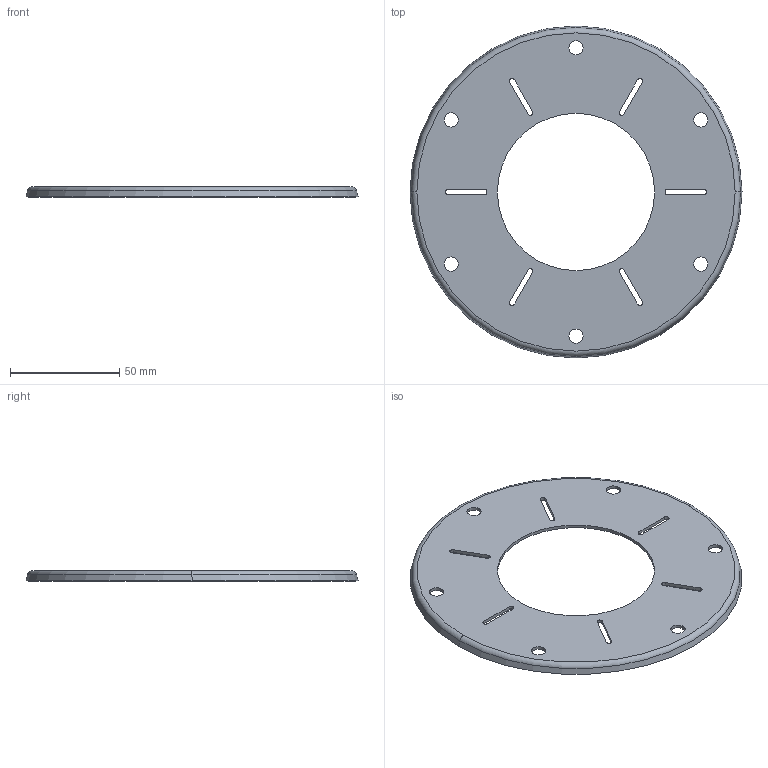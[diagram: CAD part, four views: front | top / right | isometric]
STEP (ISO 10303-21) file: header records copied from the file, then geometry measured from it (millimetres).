
FILE_DESCRIPTION (( 'STEP AP214' ), '1' );
FILE_NAME ('0538 Reibscheibe.STEP', '2025-03-26T10:58:44', ( '' ), ( '' ), 'SwSTEP 2.0', 'SolidWorks 2022', '' );
FILE_SCHEMA (( 'AUTOMOTIVE_DESIGN' ));
Length unit declared in the file: millimetre
Products named in the file (1): 0538 Reibscheibe
Bounding box: 152 x 152 x 5 mm (x, y, z)
Volume: 21757.8 mm3; surface area: 30718.6 mm2
Topology: 1 solids, 1 shells, 56 faces, 154 edges, 100 vertices
Faces by surface type: cylinder 32, plane 14, cone 6, torus 4
Entity records: 1900 total; most frequent: DIRECTION 348, CARTESIAN_POINT 311, ORIENTED_EDGE 308, EDGE_CURVE 154, AXIS2_PLACEMENT_3D 137, VERTEX_POINT 100, EDGE_LOOP 82, CIRCLE 80
